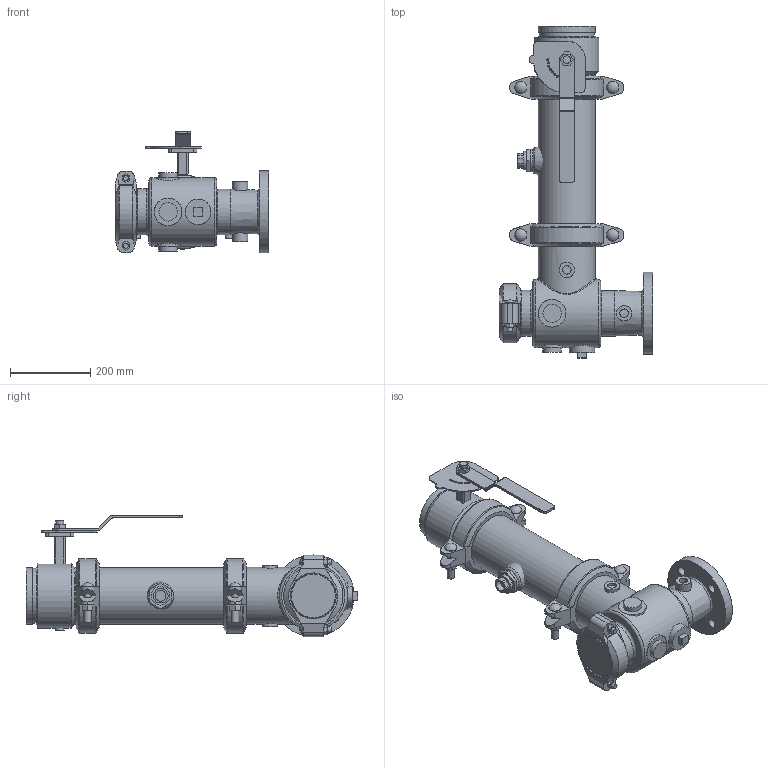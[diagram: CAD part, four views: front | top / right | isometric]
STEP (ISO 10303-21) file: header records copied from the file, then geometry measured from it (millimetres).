
FILE_DESCRIPTION(/* description */ ('VIC SVI PUMP DROP HORZ S/391 (OGSxFLG)','CAx-IF Rec.Pracs.---Representation and Presentation of Product Manufacturing Information (PMI)---4.0---2014-10-13'),/* implementation_level */ '2;1');
FILE_NAME(/* name */ 'C:\Users\Vjadhav\AppData\Roaming\Autodesk\ApplicationPlugins\Victaulic.Temp\A952\Victaulic_IPS_SVI_CL 150_Series 391 (OGSxFLG)_05.0x03.0 (125x80).stp',/* time_stamp */ '2021-04-09T17:54:01+05:00',/* author */ ('kkamble'),/* organization */ ('Victaulic'),/* preprocessor_version */ 'ST-DEVELOPER v17.2',/* originating_system */ 'Autodesk Inventor 2019',/* authorisation */ '');
FILE_SCHEMA (('AP242_MANAGED_MODEL_BASED_3D_ENGINEERING_MIM_LF { 1 0 10303 442 1 1 4 }'));
Length unit declared in the file: inch
Products named in the file (9): 391-05.0x03.0; 731D-05.0x03.0; 731D-05.0x03.0_1; 731D-05.0; 07-04.0; PIPE-05.0; 177N-05.0; 761-05.0; 923-04.0x0.75
Assembly tree (9 placements, depth 3):
  391-05.0x03.0
    731D-05.0x03.0
      731D-05.0x03.0_1
      731D-05.0
      07-04.0
    177N-05.0  x2
    PIPE-05.0
    761-05.0
    923-04.0x0.75
Bounding box: 381 x 824.99 x 302.01 mm (x, y, z)
Volume: 8014552.5 mm3; surface area: 1363370.9 mm2
Topology: 8 solids, 11 shells, 528 faces, 1366 edges, 922 vertices
Faces by surface type: plane 298, cylinder 187, cone 19, torus 17, sphere 6, bspline 1
Full cylindrical faces by diameter (mm): 4.826 x10, 8.636 x4, 12.7 x4, 17.78 x4, 19.05 x2, 21.336 x4, 21.996 x4, 22.225 x2, 22.86 x1, 26.67 x1, 30.48 x4, 38.1 x4, 45.72 x3, 45.974 x2, 55.118 x1, 55.626 x1, 63.5 x1, 76.2 x1, 84.074 x1, 90.678 x1, 96.52 x1, 107.95 x1, 110.084 x2, 113.03 x1, 114.3 x5, 121.412 x1, 128.194 x2, 128.6 x2, 137.033 x5, 141.3 x13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
Entity records: 15469 total; most frequent: CARTESIAN_POINT 3519, DIRECTION 2457, ORIENTED_EDGE 2252, EDGE_CURVE 1126, AXIS2_PLACEMENT_3D 936, VERTEX_POINT 763, LINE 585, VECTOR 585
